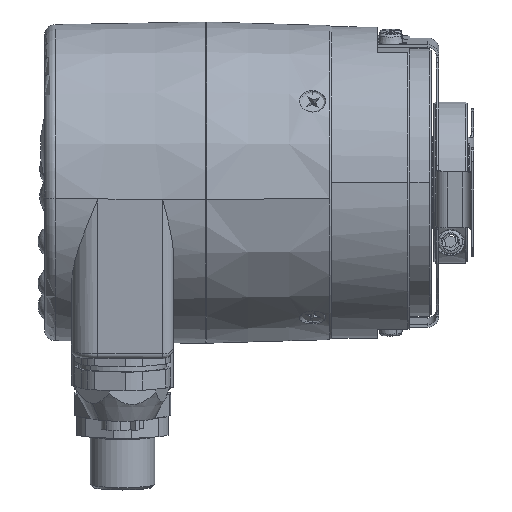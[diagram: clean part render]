
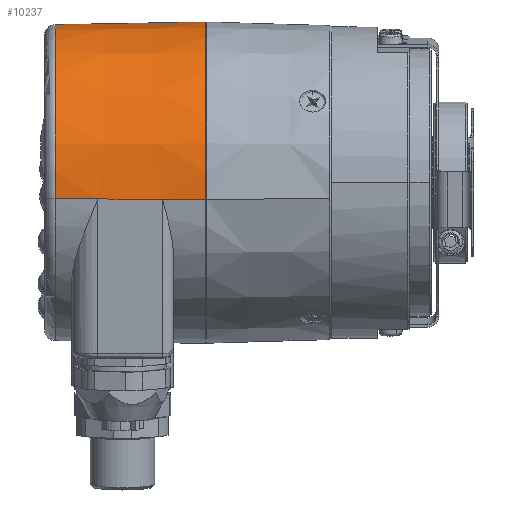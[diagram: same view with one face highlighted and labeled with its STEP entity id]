
A CAD part, top view. The second image highlights one B-rep face of the part: STEP entity #10237.
In plain terms, the highlighted conical face has half-angle 1 degrees and reference radius 30 mm.
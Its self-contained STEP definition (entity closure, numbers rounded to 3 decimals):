
#10234 = EDGE_CURVE ( 'NONE', #10307, #10235, #16224, .T. ) ;
#10235 = VERTEX_POINT ( 'NONE', #16220 ) ;
#10236 = ORIENTED_EDGE ( 'NONE', *, *, #10295, .T. ) ;
#10237 = ADVANCED_FACE ( 'NONE', ( #16219 ), #16202, .T. ) ;
#10238 = ORIENTED_EDGE ( 'NONE', *, *, #10239, .T. ) ;
#10239 = EDGE_CURVE ( 'NONE', #10306, #10307, #16254, .T. ) ;
#10242 = EDGE_LOOP ( 'NONE', ( #10238, #10308, #10236, #10294, #10296, #10292, #10298, #10290 ) ) ;
#10286 = VERTEX_POINT ( 'NONE', #16401 ) ;
#10287 = VERTEX_POINT ( 'NONE', #16400 ) ;
#10288 = VERTEX_POINT ( 'NONE', #16399 ) ;
#10289 = EDGE_CURVE ( 'NONE', #10300, #10287, #16383, .T. ) ;
#10290 = ORIENTED_EDGE ( 'NONE', *, *, #10302, .F. ) ;
#10291 = EDGE_CURVE ( 'NONE', #10287, #10293, #16379, .T. ) ;
#10292 = ORIENTED_EDGE ( 'NONE', *, *, #10291, .F. ) ;
#10293 = VERTEX_POINT ( 'NONE', #16375 ) ;
#10294 = ORIENTED_EDGE ( 'NONE', *, *, #10301, .T. ) ;
#10295 = EDGE_CURVE ( 'NONE', #10235, #10286, #16374, .T. ) ;
#10296 = ORIENTED_EDGE ( 'NONE', *, *, #10297, .F. ) ;
#10297 = EDGE_CURVE ( 'NONE', #10293, #10288, #16369, .T. ) ;
#10298 = ORIENTED_EDGE ( 'NONE', *, *, #10289, .F. ) ;
#10300 = VERTEX_POINT ( 'NONE', #16425 ) ;
#10301 = EDGE_CURVE ( 'NONE', #10286, #10288, #16424, .T. ) ;
#10302 = EDGE_CURVE ( 'NONE', #10306, #10300, #16420, .T. ) ;
#10306 = VERTEX_POINT ( 'NONE', #16456 ) ;
#10307 = VERTEX_POINT ( 'NONE', #16455 ) ;
#10308 = ORIENTED_EDGE ( 'NONE', *, *, #10234, .T. ) ;
#16199 = DIRECTION ( 'NONE',  ( 0., 0.105, -0.995 ) ) ;
#16200 = DIRECTION ( 'NONE',  ( 1., 0., 0. ) ) ;
#16201 = AXIS2_PLACEMENT_3D ( 'NONE', #16203, #16200, #16199 ) ;
#16202 = CONICAL_SURFACE ( 'NONE', #16201, 30., 0.017 ) ;
#16203 = CARTESIAN_POINT ( 'NONE',  ( -16., 0., 0. ) ) ;
#16219 = FACE_OUTER_BOUND ( 'NONE', #10242, .T. ) ;
#16220 = CARTESIAN_POINT ( 'NONE',  ( -36.087, -3.099, 29.487 ) ) ;
#16221 = DIRECTION ( 'NONE',  ( 1., -0.002, 0.017 ) ) ;
#16222 = VECTOR ( 'NONE', #16221, 1000. ) ;
#16223 = CARTESIAN_POINT ( 'NONE',  ( -16., -3.136, 29.836 ) ) ;
#16224 = LINE ( 'NONE', #16223, #16222 ) ;
#16250 = DIRECTION ( 'NONE',  ( 0., -0.105, 0.995 ) ) ;
#16251 = DIRECTION ( 'NONE',  ( 1., 0., 0. ) ) ;
#16252 = CARTESIAN_POINT ( 'NONE',  ( -44.035, 0., 0. ) ) ;
#16253 = AXIS2_PLACEMENT_3D ( 'NONE', #16252, #16251, #16250 ) ;
#16254 = CIRCLE ( 'NONE', #16253, 29.511 ) ;
#16365 = DIRECTION ( 'NONE',  ( 0., 0.105, -0.995 ) ) ;
#16366 = DIRECTION ( 'NONE',  ( 1., 0., 0. ) ) ;
#16367 = CARTESIAN_POINT ( 'NONE',  ( -16., 0., 0. ) ) ;
#16368 = AXIS2_PLACEMENT_3D ( 'NONE', #16367, #16366, #16365 ) ;
#16369 = CIRCLE ( 'NONE', #16368, 30. ) ;
#16371 = DIRECTION ( 'NONE',  ( 1., -0.002, 0.017 ) ) ;
#16372 = VECTOR ( 'NONE', #16371, 1000. ) ;
#16373 = CARTESIAN_POINT ( 'NONE',  ( -16.523, -3.135, 29.827 ) ) ;
#16374 = LINE ( 'NONE', #16373, #16372 ) ;
#16375 = CARTESIAN_POINT ( 'NONE',  ( -16., 3.136, -29.836 ) ) ;
#16376 = DIRECTION ( 'NONE',  ( 1., 0.002, -0.017 ) ) ;
#16377 = VECTOR ( 'NONE', #16376, 1000. ) ;
#16378 = CARTESIAN_POINT ( 'NONE',  ( -16., 3.136, -29.836 ) ) ;
#16379 = LINE ( 'NONE', #16378, #16377 ) ;
#16380 = DIRECTION ( 'NONE',  ( 1., 0.002, -0.017 ) ) ;
#16381 = VECTOR ( 'NONE', #16380, 1000. ) ;
#16382 = CARTESIAN_POINT ( 'NONE',  ( -16.523, 3.135, -29.827 ) ) ;
#16383 = LINE ( 'NONE', #16382, #16381 ) ;
#16399 = CARTESIAN_POINT ( 'NONE',  ( -16., -3.136, 29.836 ) ) ;
#16400 = CARTESIAN_POINT ( 'NONE',  ( -24.035, 3.121, -29.696 ) ) ;
#16401 = CARTESIAN_POINT ( 'NONE',  ( -24.035, -3.121, 29.696 ) ) ;
#16416 = DIRECTION ( 'NONE',  ( 1., 0.002, -0.017 ) ) ;
#16417 = VECTOR ( 'NONE', #16416, 1000. ) ;
#16418 = CARTESIAN_POINT ( 'NONE',  ( -16., 3.136, -29.836 ) ) ;
#16420 = LINE ( 'NONE', #16418, #16417 ) ;
#16421 = DIRECTION ( 'NONE',  ( 1., -0.002, 0.017 ) ) ;
#16422 = VECTOR ( 'NONE', #16421, 1000. ) ;
#16423 = CARTESIAN_POINT ( 'NONE',  ( -16., -3.136, 29.836 ) ) ;
#16424 = LINE ( 'NONE', #16423, #16422 ) ;
#16425 = CARTESIAN_POINT ( 'NONE',  ( -36.087, 3.099, -29.487 ) ) ;
#16455 = CARTESIAN_POINT ( 'NONE',  ( -44.035, -3.085, 29.349 ) ) ;
#16456 = CARTESIAN_POINT ( 'NONE',  ( -44.035, 3.085, -29.349 ) ) ;
